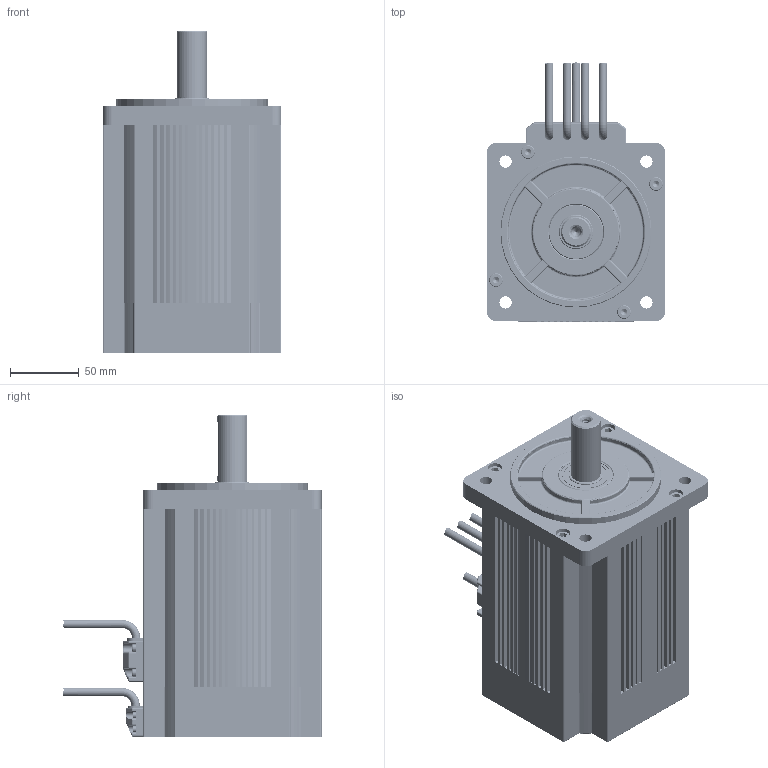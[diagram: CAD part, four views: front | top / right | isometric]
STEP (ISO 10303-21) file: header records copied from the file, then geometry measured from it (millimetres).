
FILE_DESCRIPTION (( 'STEP AP203' ), '1' );
FILE_NAME ('130L80-N-竘盄碟-4盄.STEP', '2022-07-30T08:14:03', ( 'muse' ), ( 'Organization' ), 'SwSTEP 2.0', 'SolidWorks 2018', '' );
FILE_SCHEMA (( 'CONFIG_CONTROL_DESIGN' ));
Products named in the file (1): 130L80-N-竘盄碟-4盄
Bounding box: 130 x 188.82 x 235 mm (x, y, z)
Volume: 942772.6 mm3; surface area: 381650.9 mm2
Topology: 31 solids, 31 shells, 4657 faces, 10198 edges, 5604 vertices
Faces by surface type: cone 1947, cylinder 1609, plane 687, bspline 179, torus 177, sphere 58
Entity records: 130059 total; most frequent: CARTESIAN_POINT 27720, DIRECTION 23299, ORIENTED_EDGE 20212, EDGE_CURVE 10106, AXIS2_PLACEMENT_3D 9193, VERTEX_POINT 5598, LINE 4913, VECTOR 4913
